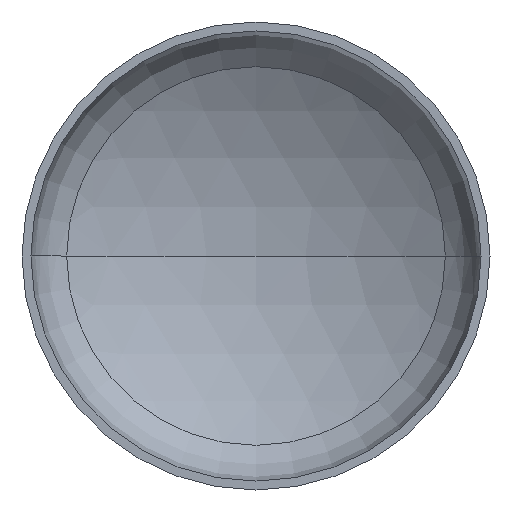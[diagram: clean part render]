
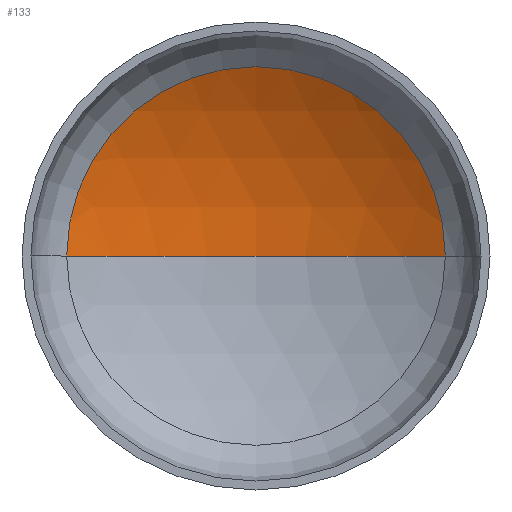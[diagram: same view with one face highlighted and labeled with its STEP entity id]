
A CAD part, front view. The second image highlights one B-rep face of the part: STEP entity #133.
In plain terms, the highlighted spherical face has radius 1760 mm.
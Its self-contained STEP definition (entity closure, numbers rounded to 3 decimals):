
#6 = ORIENTED_EDGE ( 'NONE', *, *, #350, .T. ) ;
#8 = EDGE_LOOP ( 'NONE', ( #17, #125, #6 ) ) ;
#10 = VERTEX_POINT ( 'NONE', #372 ) ;
#17 = ORIENTED_EDGE ( 'NONE', *, *, #96, .F. ) ;
#19 = AXIS2_PLACEMENT_3D ( 'NONE', #180, #347, #346 ) ;
#30 = FACE_OUTER_BOUND ( 'NONE', #8, .T. ) ;
#37 = VERTEX_POINT ( 'NONE', #207 ) ;
#41 = AXIS2_PLACEMENT_3D ( 'NONE', #98, #128, #130 ) ;
#65 = EDGE_CURVE ( 'NONE', #86, #37, #161, .T. ) ;
#86 = VERTEX_POINT ( 'NONE', #321 ) ;
#96 = EDGE_CURVE ( 'NONE', #86, #10, #242, .T. ) ;
#98 = CARTESIAN_POINT ( 'NONE',  ( 0., 423.334, 0. ) ) ;
#120 = AXIS2_PLACEMENT_3D ( 'NONE', #344, #371, #349 ) ;
#125 = ORIENTED_EDGE ( 'NONE', *, *, #65, .T. ) ;
#128 = DIRECTION ( 'NONE',  ( 0., -1., 0. ) ) ;
#130 = DIRECTION ( 'NONE',  ( 1., 0., 0. ) ) ;
#133 = ADVANCED_FACE ( 'NONE', ( #30 ), #235, .F. ) ;
#161 = CIRCLE ( 'NONE', #392, 1760. ) ;
#180 = CARTESIAN_POINT ( 'NONE',  ( 0., -1095.102, 0. ) ) ;
#207 = CARTESIAN_POINT ( 'NONE',  ( 889.915, 423.334, 0. ) ) ;
#235 = SPHERICAL_SURFACE ( 'NONE', #120, 1760. ) ;
#242 = CIRCLE ( 'NONE', #19, 1760. ) ;
#319 = CIRCLE ( 'NONE', #41, 889.915 ) ;
#321 = CARTESIAN_POINT ( 'NONE',  ( 0., 664.898, 0. ) ) ;
#335 = DIRECTION ( 'NONE',  ( -1., 0., 0. ) ) ;
#339 = DIRECTION ( 'NONE',  ( 0., 0., -1. ) ) ;
#341 = CARTESIAN_POINT ( 'NONE',  ( 0., -1095.102, 0. ) ) ;
#344 = CARTESIAN_POINT ( 'NONE',  ( 0., -1095.102, 0. ) ) ;
#346 = DIRECTION ( 'NONE',  ( 1., 0., 0. ) ) ;
#347 = DIRECTION ( 'NONE',  ( 0., 0., 1. ) ) ;
#349 = DIRECTION ( 'NONE',  ( -1., 0., 0. ) ) ;
#350 = EDGE_CURVE ( 'NONE', #37, #10, #319, .T. ) ;
#371 = DIRECTION ( 'NONE',  ( 0., 0., -1. ) ) ;
#372 = CARTESIAN_POINT ( 'NONE',  ( -889.915, 423.334, 0. ) ) ;
#392 = AXIS2_PLACEMENT_3D ( 'NONE', #341, #339, #335 ) ;
